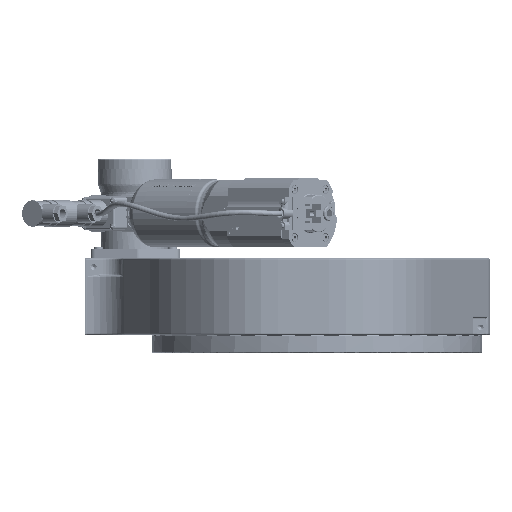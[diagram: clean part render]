
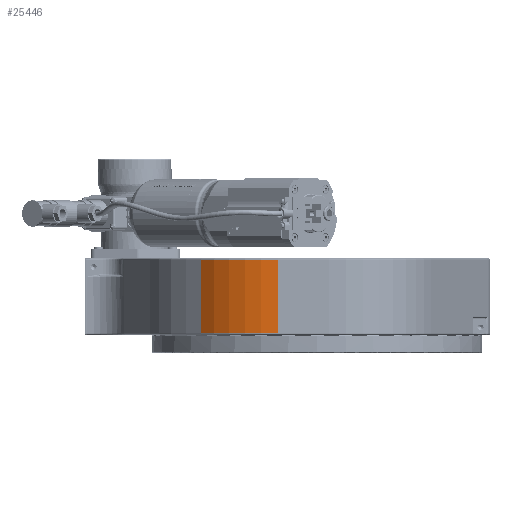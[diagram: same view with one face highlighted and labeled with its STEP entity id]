
A CAD part, front view. The second image highlights one B-rep face of the part: STEP entity #25446.
In plain terms, the highlighted cylindrical face has radius 118 mm (diameter 236 mm), a partial arc.
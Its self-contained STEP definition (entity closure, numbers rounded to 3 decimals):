
#10956=LINE('',#108348,#14750);
#10959=LINE('',#108354,#14753);
#14750=VECTOR('',#83111,1.);
#14753=VECTOR('',#83116,1.);
#20203=CYLINDRICAL_SURFACE('',#74854,118.);
#25446=ADVANCED_FACE('',(#30953),#20203,.T.);
#30953=FACE_OUTER_BOUND('',#34157,.T.);
#34157=EDGE_LOOP('',(#41112,#41113,#41114,#41115));
#41112=ORIENTED_EDGE('',*,*,#63387,.F.);
#41113=ORIENTED_EDGE('',*,*,#63388,.T.);
#41114=ORIENTED_EDGE('',*,*,#63384,.T.);
#41115=ORIENTED_EDGE('',*,*,#63389,.T.);
#56913=VERTEX_POINT('',#108349);
#56914=VERTEX_POINT('',#108350);
#56915=VERTEX_POINT('',#108355);
#56916=VERTEX_POINT('',#108356);
#63384=EDGE_CURVE('',#56913,#56914,#10956,.T.);
#63387=EDGE_CURVE('',#56915,#56916,#10959,.T.);
#63388=EDGE_CURVE('',#56915,#56913,#71357,.T.);
#63389=EDGE_CURVE('',#56914,#56916,#71358,.T.);
#71357=CIRCLE('',#74852,118.);
#71358=CIRCLE('',#74853,118.);
#74852=AXIS2_PLACEMENT_3D('',#108357,#83117,#83118);
#74853=AXIS2_PLACEMENT_3D('',#108358,#83119,#83120);
#74854=AXIS2_PLACEMENT_3D('',#108359,#83121,#83122);
#83111=DIRECTION('',(0.,0.,-1.));
#83116=DIRECTION('',(0.,0.,-1.));
#83117=DIRECTION('',(0.,0.,-1.));
#83118=DIRECTION('',(1.,0.,0.));
#83119=DIRECTION('',(0.,0.,1.));
#83120=DIRECTION('',(1.,0.,0.));
#83121=DIRECTION('',(0.,0.,-1.));
#83122=DIRECTION('',(-1.,0.,0.));
#108348=CARTESIAN_POINT('',(-102.244,-206.576,40.5));
#108349=CARTESIAN_POINT('',(-102.244,-206.576,39.));
#108350=CARTESIAN_POINT('',(-102.244,-206.576,-39.));
#108354=CARTESIAN_POINT('',(-21.,-239.,40.5));
#108355=CARTESIAN_POINT('',(-21.,-239.,39.));
#108356=CARTESIAN_POINT('',(-21.,-239.,-39.));
#108357=CARTESIAN_POINT('',(-21.,-121.,39.));
#108358=CARTESIAN_POINT('',(-21.,-121.,-39.));
#108359=CARTESIAN_POINT('',(-21.,-121.,40.5));
